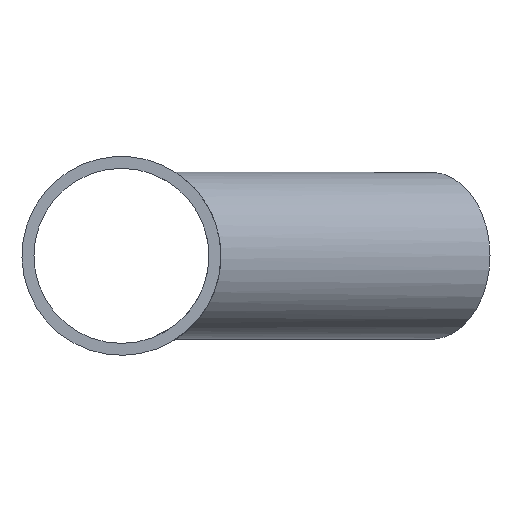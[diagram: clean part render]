
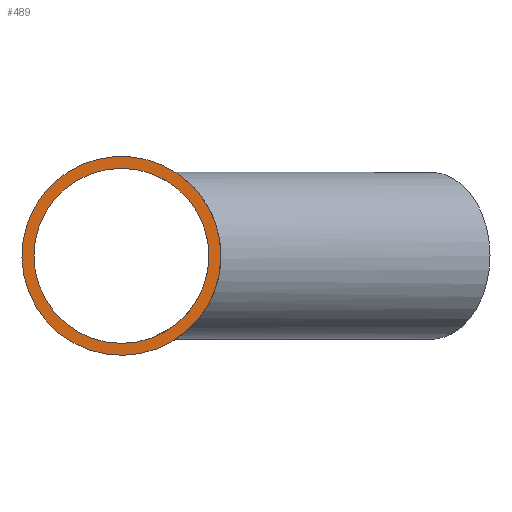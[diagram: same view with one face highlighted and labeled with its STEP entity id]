
A CAD part, front view. The second image highlights one B-rep face of the part: STEP entity #489.
In plain terms, the highlighted planar face has unit normal (0, -1, 0).
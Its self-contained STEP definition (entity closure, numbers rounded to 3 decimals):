
#199=CARTESIAN_POINT('',(-33.,-112.,0.));
#200=VERTEX_POINT('',#199);
#207=CARTESIAN_POINT('',(0.,-112.,0.));
#208=DIRECTION('',(0.,1.,0.));
#209=DIRECTION('',(1.,0.,0.));
#210=AXIS2_PLACEMENT_3D('',#207,#208,#209);
#211=CIRCLE('',#210,33.);
#212=EDGE_CURVE('',#200,#200,#211,.T.);
#430=CARTESIAN_POINT('',(-32.934,-112.,17.934));
#431=VERTEX_POINT('',#430);
#438=CARTESIAN_POINT('',(37.5,-112.,0.));
#439=VERTEX_POINT('',#438);
#440=CARTESIAN_POINT('',(0.,-112.,0.));
#441=DIRECTION('',(0.,1.,0.));
#442=DIRECTION('',(1.,0.,0.));
#443=AXIS2_PLACEMENT_3D('',#440,#441,#442);
#444=CIRCLE('',#443,37.5);
#445=EDGE_CURVE('',#431,#439,#444,.T.);
#447=EDGE_CURVE('',#439,#431,#444,.T.);
#477=ORIENTED_EDGE('',*,*,#447,.F.);
#478=ORIENTED_EDGE('',*,*,#445,.F.);
#479=EDGE_LOOP('',(#477,#478));
#480=FACE_OUTER_BOUND('',#479,.T.);
#481=ORIENTED_EDGE('',*,*,#212,.T.);
#482=EDGE_LOOP('',(#481));
#483=FACE_BOUND('',#482,.T.);
#484=CARTESIAN_POINT('',(0.,-112.,0.));
#485=DIRECTION('',(0.,1.,0.));
#486=DIRECTION('',(0.,0.,1.));
#487=AXIS2_PLACEMENT_3D('',#484,#485,#486);
#488=PLANE('',#487);
#489=ADVANCED_FACE('',(#480,#483),#488,.F.);
